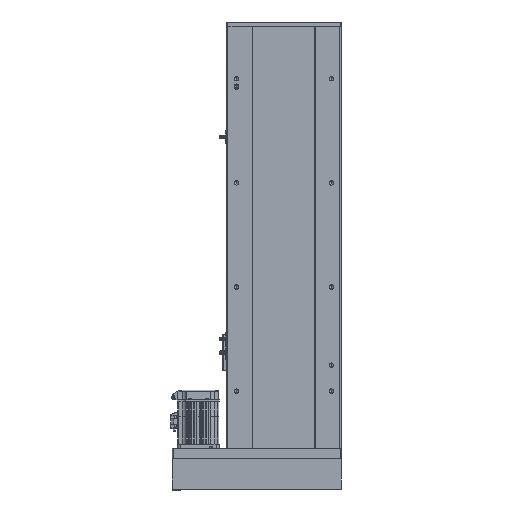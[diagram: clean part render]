
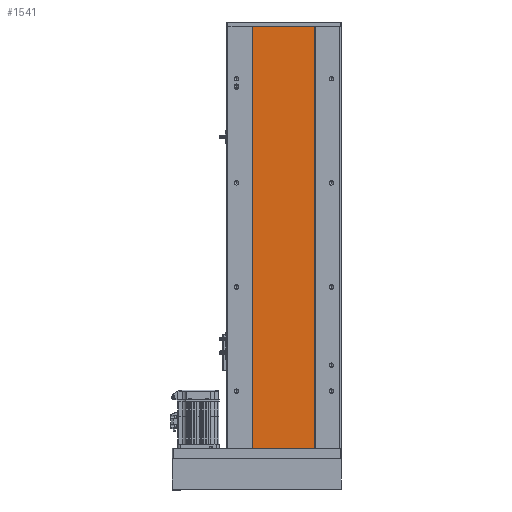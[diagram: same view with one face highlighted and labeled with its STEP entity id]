
A CAD part, front view. The second image highlights one B-rep face of the part: STEP entity #1541.
In plain terms, the highlighted planar face has unit normal (0, -1, 0).
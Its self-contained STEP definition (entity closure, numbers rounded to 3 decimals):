
#210 = CARTESIAN_POINT ( 'NONE',  ( 551.58, 155.016, 0. ) ) ;
#1423 = VECTOR ( 'NONE', #37712, 1000. ) ;
#1541 = ADVANCED_FACE ( 'NONE', ( #20549 ), #20123, .F. ) ;
#2506 = DIRECTION ( 'NONE',  ( 0., 0., -1. ) ) ;
#3707 = CARTESIAN_POINT ( 'NONE',  ( 432.408, 155.016, 811. ) ) ;
#5141 = LINE ( 'NONE', #14163, #1423 ) ;
#5451 = CARTESIAN_POINT ( 'NONE',  ( 0., 155.016, 811. ) ) ;
#5747 = VERTEX_POINT ( 'NONE', #210 ) ;
#7325 = DIRECTION ( 'NONE',  ( 0., 0., 1. ) ) ;
#7453 = ORIENTED_EDGE ( 'NONE', *, *, #19391, .F. ) ;
#10699 = EDGE_CURVE ( 'NONE', #13984, #5747, #5141, .T. ) ;
#12584 = VERTEX_POINT ( 'NONE', #27017 ) ;
#13984 = VERTEX_POINT ( 'NONE', #42246 ) ;
#14163 = CARTESIAN_POINT ( 'NONE',  ( 0., 155.016, 0. ) ) ;
#14889 = LINE ( 'NONE', #5451, #22989 ) ;
#16776 = DIRECTION ( 'NONE',  ( 0., 0., -1. ) ) ;
#19391 = EDGE_CURVE ( 'NONE', #12584, #5747, #38479, .T. ) ;
#19470 = EDGE_CURVE ( 'NONE', #41389, #12584, #14889, .T. ) ;
#19956 = LINE ( 'NONE', #3707, #30422 ) ;
#20123 = PLANE ( 'NONE',  #27260 ) ;
#20549 = FACE_OUTER_BOUND ( 'NONE', #33138, .T. ) ;
#22145 = ORIENTED_EDGE ( 'NONE', *, *, #34795, .T. ) ;
#22819 = CARTESIAN_POINT ( 'NONE',  ( 551.58, 155.016, 811. ) ) ;
#22989 = VECTOR ( 'NONE', #31586, 1000. ) ;
#23772 = CARTESIAN_POINT ( 'NONE',  ( 0., 155.016, 811. ) ) ;
#27017 = CARTESIAN_POINT ( 'NONE',  ( 551.58, 155.016, 811. ) ) ;
#27260 = AXIS2_PLACEMENT_3D ( 'NONE', #23772, #30881, #7325 ) ;
#30422 = VECTOR ( 'NONE', #16776, 1000. ) ;
#30445 = ORIENTED_EDGE ( 'NONE', *, *, #10699, .T. ) ;
#30881 = DIRECTION ( 'NONE',  ( 0., 1., 0. ) ) ;
#31586 = DIRECTION ( 'NONE',  ( 1., 0., 0. ) ) ;
#33138 = EDGE_LOOP ( 'NONE', ( #30445, #7453, #40605, #22145 ) ) ;
#34795 = EDGE_CURVE ( 'NONE', #41389, #13984, #19956, .T. ) ;
#35807 = CARTESIAN_POINT ( 'NONE',  ( 432.408, 155.016, 811. ) ) ;
#36685 = VECTOR ( 'NONE', #2506, 1000. ) ;
#37712 = DIRECTION ( 'NONE',  ( 1., 0., 0. ) ) ;
#38479 = LINE ( 'NONE', #22819, #36685 ) ;
#40605 = ORIENTED_EDGE ( 'NONE', *, *, #19470, .F. ) ;
#41389 = VERTEX_POINT ( 'NONE', #35807 ) ;
#42246 = CARTESIAN_POINT ( 'NONE',  ( 432.408, 155.016, 0. ) ) ;
